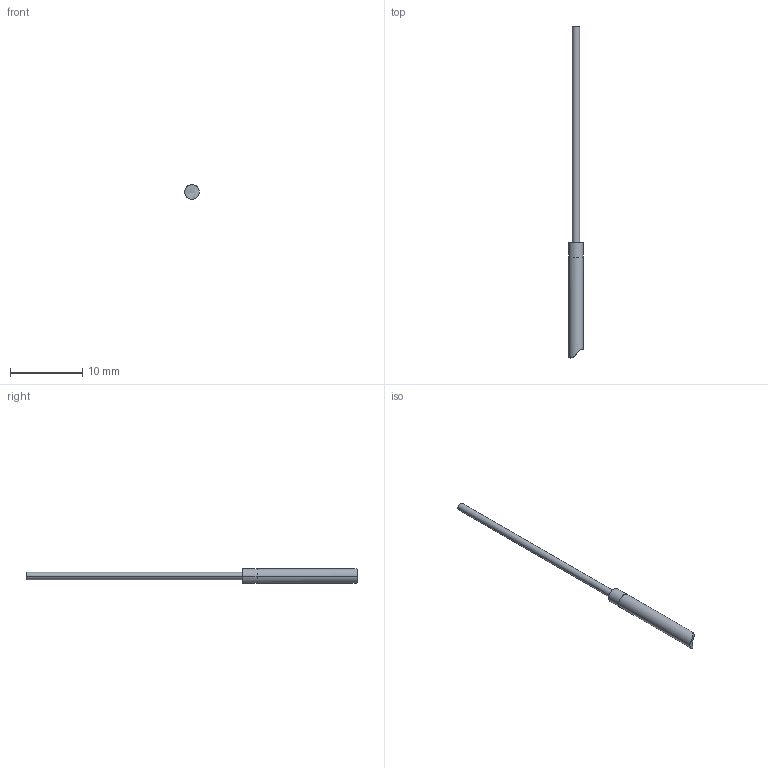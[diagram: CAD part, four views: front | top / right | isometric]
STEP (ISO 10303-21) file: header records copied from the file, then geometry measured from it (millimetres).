
FILE_DESCRIPTION((''),'2;1');
FILE_NAME('0000472837_PRT','2022-01-13T09:48:31',('pdmservice'),(''),'CREO PARAMETRIC BY PTC INC, 2018420','CREO PARAMETRIC BY PTC INC, 2018420','');
FILE_SCHEMA(('AUTOMOTIVE_DESIGN { 1 0 10303 214 1 1 1 1 }'));
Length unit declared in the file: millimetre
Products named in the file (1): 0000472837_PRT
Bounding box: 2.02 x 45.98 x 2.02 mm (x, y, z)
Volume: 72.9 mm3; surface area: 199.2 mm2
Topology: 1 solids, 1 shells, 13 faces, 24 edges, 16 vertices
Faces by surface type: cylinder 8, plane 4, extrusion 1
Entity records: 1295 total; most frequent: CARTESIAN_POINT 130, PROPERTY_DEFINITION 122, REPRESENTATION 121, PROPERTY_DEFINITION_REPRESENTATION 121, DESCRIPTIVE_REPRESENTATION_ITEM 109, GENERAL_PROPERTY 104, GENERAL_PROPERTY_ASSOCIATION 104, DIRECTION 61
